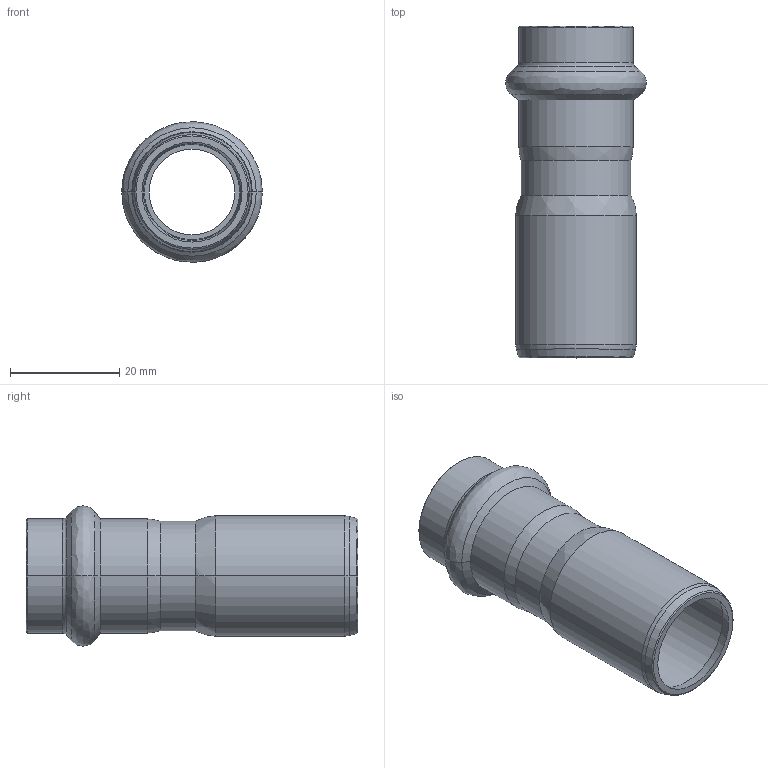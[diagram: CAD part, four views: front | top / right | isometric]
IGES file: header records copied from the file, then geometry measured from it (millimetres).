
Start section: Elysium IGES Interface
Global section: file name: C:\Users\Wallenburg\Desktop\3d modellen sudo\S-Pr VP\SP6243V\6243VW2218.igs; native system: CoCreate Modeling 17.00A  17-Jun-2010; preprocessor: CoCreate IGES_3D V2.2; author: Unknown; organization: Unknown; date: 20130124.091636; units: millimetre
Bounding box: 25.7 x 60.64 x 25.68 mm (x, y, z)
Volume: 5741.4 mm3; surface area: 8105.5 mm2
Topology: 1 solids, 1 shells, 58 faces, 116 edges, 62 vertices
Faces by surface type: bspline 58
